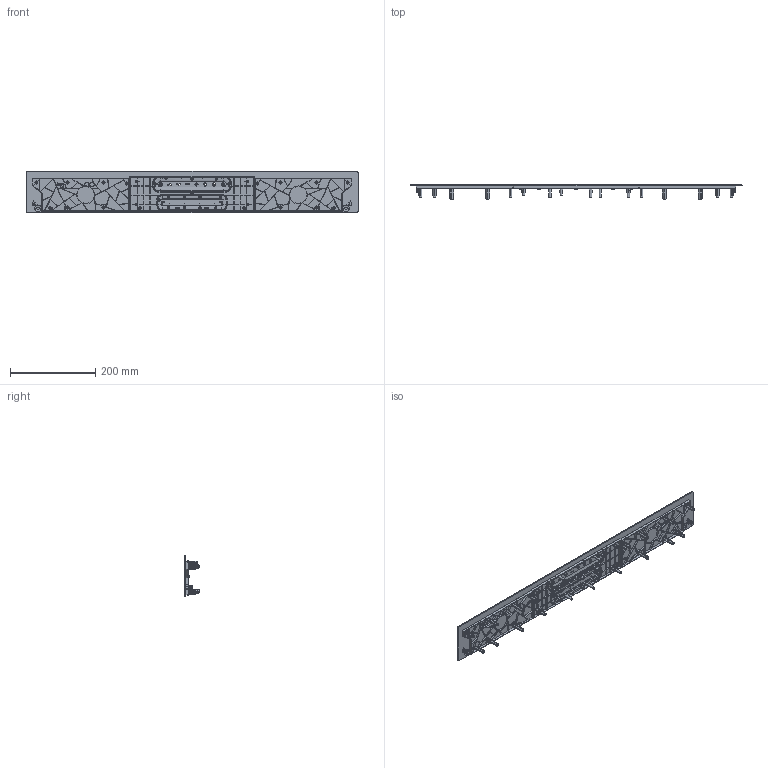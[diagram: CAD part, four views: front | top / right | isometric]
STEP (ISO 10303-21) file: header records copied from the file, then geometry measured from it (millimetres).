
FILE_DESCRIPTION((''),'2;1');
FILE_NAME('CASE_TOP_MODIFY_UA300','2021-03-17T',('kym12'),(''),'CREO PARAMETRIC BY PTC INC, 2017170','CREO PARAMETRIC BY PTC INC, 2017170','');
FILE_SCHEMA(('CONFIG_CONTROL_DESIGN'));
Products named in the file (1): CASE_TOP_MODIFY_UA300
Bounding box: 780.37 x 35.2 x 97.33 mm (x, y, z)
Volume: 265719.8 mm3; surface area: 233075.4 mm2
Topology: 1 solids, 1 shells, 1903 faces, 5140 edges, 3366 vertices
Faces by surface type: plane 1303, cylinder 289, cone 156, bspline 151, torus 4
Entity records: 70147 total; most frequent: CARTESIAN_POINT 22607, ORIENTED_EDGE 10276, DIRECTION 9190, EDGE_CURVE 5138, VECTOR 3804, LINE 3804, VERTEX_POINT 3366, AXIS2_PLACEMENT_3D 2693
